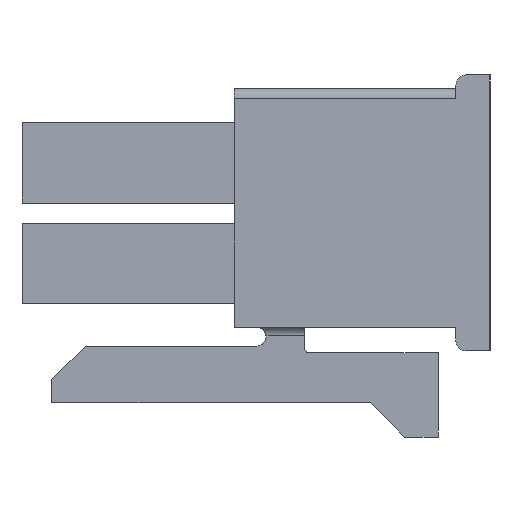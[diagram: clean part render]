
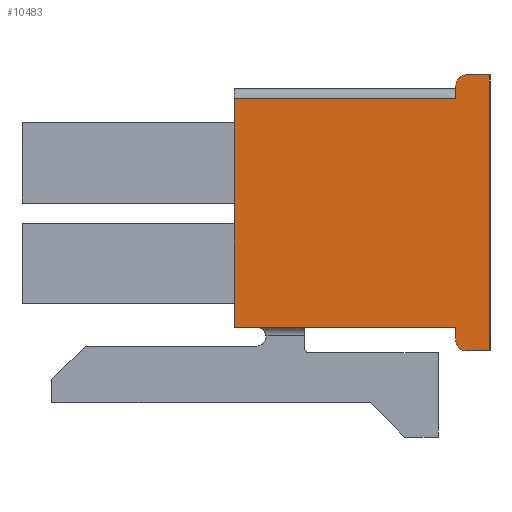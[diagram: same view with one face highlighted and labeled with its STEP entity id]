
A CAD part, left-side view. The second image highlights one B-rep face of the part: STEP entity #10483.
In plain terms, the highlighted planar face has unit normal (-1, 0, 0).
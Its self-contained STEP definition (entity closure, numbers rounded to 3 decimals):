
#3423=DIRECTION('',(0.,1.,0.));
#3424=VECTOR('',#3423,6.63);
#3425=CARTESIAN_POINT('',(-15.43,-2.98,3.43));
#3426=LINE('',#3425,#3424);
#3427=DIRECTION('',(0.,0.,-1.));
#3428=VECTOR('',#3427,0.4);
#3429=CARTESIAN_POINT('',(-15.43,-2.98,3.83));
#3430=LINE('',#3429,#3428);
#3431=CARTESIAN_POINT('',(-15.43,-3.28,3.83));
#3432=DIRECTION('',(-1.,0.,0.));
#3433=DIRECTION('',(0.,0.,1.));
#3434=AXIS2_PLACEMENT_3D('',#3431,#3432,#3433);
#3436=DIRECTION('',(0.,1.,0.));
#3437=VECTOR('',#3436,0.72);
#3438=CARTESIAN_POINT('',(-15.43,-4.,4.13));
#3439=LINE('',#3438,#3437);
#3440=DIRECTION('',(0.,0.,1.));
#3441=VECTOR('',#3440,8.25);
#3442=CARTESIAN_POINT('',(-15.43,-4.,-4.12));
#3443=LINE('',#3442,#3441);
#3444=DIRECTION('',(0.,-1.,0.));
#3445=VECTOR('',#3444,0.73);
#3446=CARTESIAN_POINT('',(-15.43,-3.27,-4.12));
#3447=LINE('',#3446,#3445);
#3448=CARTESIAN_POINT('',(-15.43,-3.27,-3.83));
#3449=DIRECTION('',(-1.,0.,0.));
#3450=DIRECTION('',(0.,1.,0.));
#3451=AXIS2_PLACEMENT_3D('',#3448,#3449,#3450);
#3453=DIRECTION('',(0.,0.,-1.));
#3454=VECTOR('',#3453,0.41);
#3455=CARTESIAN_POINT('',(-15.43,-2.98,-3.42));
#3456=LINE('',#3455,#3454);
#3457=DIRECTION('',(0.,-1.,0.));
#3458=VECTOR('',#3457,6.63);
#3459=CARTESIAN_POINT('',(-15.43,3.65,-3.42));
#3460=LINE('',#3459,#3458);
#3461=DIRECTION('',(0.,0.,-1.));
#3462=VECTOR('',#3461,6.85);
#3463=CARTESIAN_POINT('',(-15.43,3.65,3.43));
#3464=LINE('',#3463,#3462);
#4125=CARTESIAN_POINT('',(-15.43,-2.98,3.43));
#4126=CARTESIAN_POINT('',(-15.43,3.65,3.43));
#4127=VERTEX_POINT('',#4125);
#4128=VERTEX_POINT('',#4126);
#4129=CARTESIAN_POINT('',(-15.43,-2.98,3.83));
#4130=VERTEX_POINT('',#4129);
#4131=CARTESIAN_POINT('',(-15.43,-4.,4.13));
#4132=CARTESIAN_POINT('',(-15.43,-3.28,4.13));
#4133=VERTEX_POINT('',#4131);
#4134=VERTEX_POINT('',#4132);
#4135=CARTESIAN_POINT('',(-15.43,-4.,-4.12));
#4136=VERTEX_POINT('',#4135);
#4137=CARTESIAN_POINT('',(-15.43,-3.27,-4.12));
#4138=VERTEX_POINT('',#4137);
#4139=CARTESIAN_POINT('',(-15.43,-2.98,-3.42));
#4140=CARTESIAN_POINT('',(-15.43,-2.98,-3.83));
#4141=VERTEX_POINT('',#4139);
#4142=VERTEX_POINT('',#4140);
#4143=CARTESIAN_POINT('',(-15.43,3.65,-3.42));
#4144=VERTEX_POINT('',#4143);
#10466=CARTESIAN_POINT('',(-15.43,0.,0.));
#10467=DIRECTION('',(1.,0.,0.));
#10468=DIRECTION('',(0.,1.,0.));
#10469=AXIS2_PLACEMENT_3D('',#10466,#10467,#10468);
#10470=PLANE('',#10469);
#10471=ORIENTED_EDGE('',*,*,#5500,.F.);
#10472=ORIENTED_EDGE('',*,*,#9683,.F.);
#10473=ORIENTED_EDGE('',*,*,#9697,.F.);
#10474=ORIENTED_EDGE('',*,*,#9711,.F.);
#10475=ORIENTED_EDGE('',*,*,#9728,.F.);
#10476=ORIENTED_EDGE('',*,*,#10421,.F.);
#10477=ORIENTED_EDGE('',*,*,#10447,.F.);
#10478=ORIENTED_EDGE('',*,*,#10377,.F.);
#10479=ORIENTED_EDGE('',*,*,#9955,.F.);
#10480=ORIENTED_EDGE('',*,*,#5529,.F.);
#10481=EDGE_LOOP('',(#10471,#10472,#10473,#10474,#10475,#10476,#10477,#10478,
#10479,#10480));
#10482=FACE_OUTER_BOUND('',#10481,.F.);
#10483=ADVANCED_FACE('',(#10482),#10470,.F.);
#3435=CIRCLE('',#3434,0.3);
#3452=CIRCLE('',#3451,0.29);
#5500=EDGE_CURVE('',#4127,#4128,#3426,.T.);
#5529=EDGE_CURVE('',#4128,#4144,#3464,.T.);
#9683=EDGE_CURVE('',#4130,#4127,#3430,.T.);
#9697=EDGE_CURVE('',#4134,#4130,#3435,.T.);
#9711=EDGE_CURVE('',#4133,#4134,#3439,.T.);
#9728=EDGE_CURVE('',#4136,#4133,#3443,.T.);
#9955=EDGE_CURVE('',#4144,#4141,#3460,.T.);
#10377=EDGE_CURVE('',#4141,#4142,#3456,.T.);
#10421=EDGE_CURVE('',#4138,#4136,#3447,.T.);
#10447=EDGE_CURVE('',#4142,#4138,#3452,.T.);
